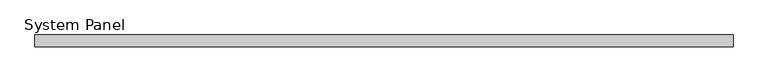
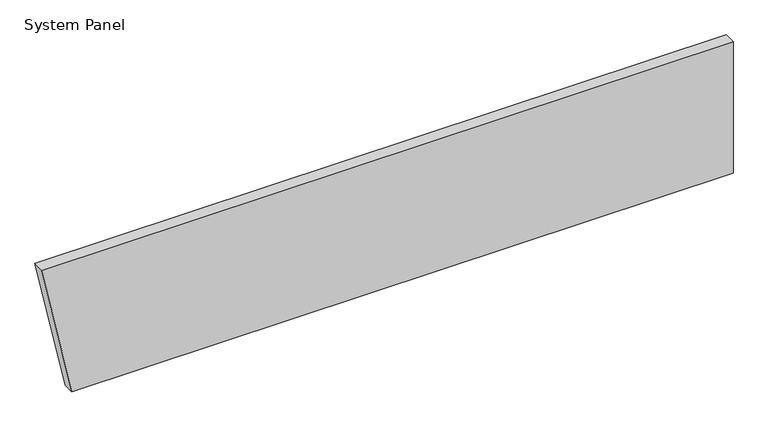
"""IFC4 building model written with IfcOpenShell, lengths in millimetres: plate geometry, System Panel : Equitilt 100mm Horizontal - Plain RHEA - EPS-FR."""

from ifc_helpers import new_model, si_unit, frame, origin, place, context, project, spatial, polyline, outline, extrude, source, transform, mapped, element, save


def system_panel_ae01b499(model_context):
    return source(origin(), model_context, "Body", "SweptSolid", [
        extrude(outline(polyline([(0.0, -2720.4358309), (0.0, 2981.3074928), (1200.0, 2981.3074928), (1200.0, -2981.3074928), (0.0, -2720.4358309)])), frame((0.0, -100.0, 0.0), z_axis=(0.0, 1.0, 0.0), x_axis=(0.0, 0.0, 1.0)), (0.0, 0.0, 1.0), 100.0),
    ])


if __name__ == "__main__":
    model = new_model("IFC4")
    model_context = context("Model", 3, world=origin())
    ifc_project = project(units=[si_unit("LENGTHUNIT", "METRE", prefix="MILLI")], contexts=[model_context])
    site = spatial("IfcSite", under=ifc_project)
    building = spatial("IfcBuilding", under=site)
    placement = place(None, origin())
    system_panel_shape = system_panel_ae01b499(model_context)
    element("IfcPlate", 1, ObjectType="System Panel : Equitilt 100mm Horizontal - Plain RHEA - EPS-FR", at=placement, inside=building, context=model_context, shape_type="MappedRepresentation", body=[
        mapped(system_panel_shape, transform((0.0, 0.0, 0.0), x_axis=(1.0, 0.0, 0.0), y_axis=(0.0, 1.0, 0.0), z_axis=(0.0, 0.0, 1.0))),
    ])
    save(model, "model.ifc")
